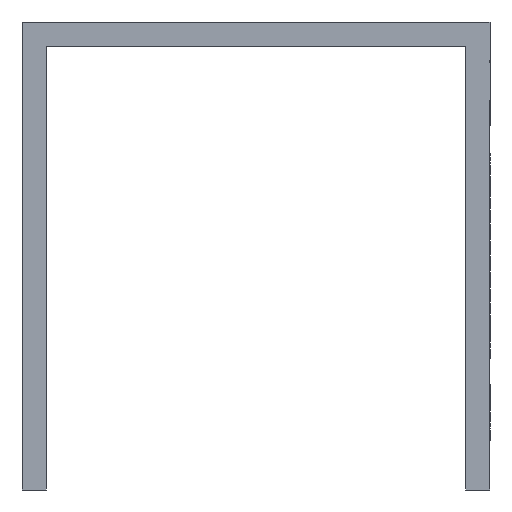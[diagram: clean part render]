
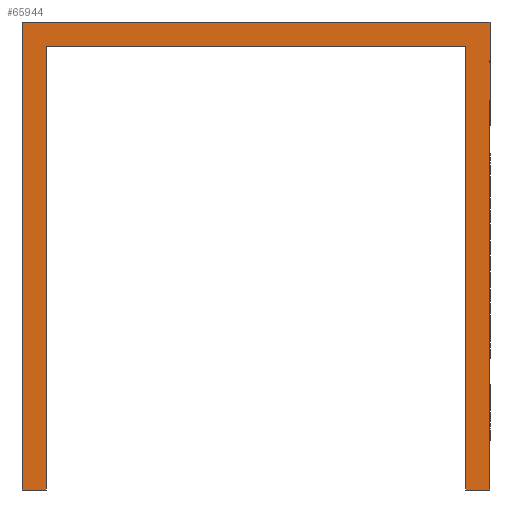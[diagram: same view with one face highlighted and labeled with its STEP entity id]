
A CAD part, front view. The second image highlights one B-rep face of the part: STEP entity #65944.
In plain terms, the highlighted planar face has unit normal (0, -1, 0).
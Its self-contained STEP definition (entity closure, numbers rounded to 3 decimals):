
#1213 = AXIS2_PLACEMENT_3D ( 'NONE', #41166, #5928, #10852 ) ;
#1663 = CARTESIAN_POINT ( 'NONE',  ( 21.5, 0., -45.5 ) ) ;
#2399 = CARTESIAN_POINT ( 'NONE',  ( -21.5, 0., -45.5 ) ) ;
#4068 = CARTESIAN_POINT ( 'NONE',  ( 24., 0., -45.5 ) ) ;
#4873 = LINE ( 'NONE', #66867, #57752 ) ;
#5928 = DIRECTION ( 'NONE',  ( 0., -1., 0. ) ) ;
#7578 = CARTESIAN_POINT ( 'NONE',  ( -24., 0., 2.5 ) ) ;
#7607 = CARTESIAN_POINT ( 'NONE',  ( -24., 0., -45.5 ) ) ;
#10852 = DIRECTION ( 'NONE',  ( 0., 0., -1. ) ) ;
#11380 = CARTESIAN_POINT ( 'NONE',  ( 24., 0., -45.5 ) ) ;
#13257 = DIRECTION ( 'NONE',  ( 1., 0., 0. ) ) ;
#13722 = DIRECTION ( 'NONE',  ( -1., 0., 0. ) ) ;
#15771 = LINE ( 'NONE', #74862, #19531 ) ;
#15963 = ORIENTED_EDGE ( 'NONE', *, *, #74988, .F. ) ;
#15977 = DIRECTION ( 'NONE',  ( -1., 0., 0. ) ) ;
#18752 = CARTESIAN_POINT ( 'NONE',  ( 24., 0., 2.5 ) ) ;
#19028 = ORIENTED_EDGE ( 'NONE', *, *, #25335, .F. ) ;
#19446 = CARTESIAN_POINT ( 'NONE',  ( 24., 0., 2.5 ) ) ;
#19531 = VECTOR ( 'NONE', #15977, 1000. ) ;
#19754 = CARTESIAN_POINT ( 'NONE',  ( 21.5, 0., -45.5 ) ) ;
#20761 = FACE_OUTER_BOUND ( 'NONE', #65677, .T. ) ;
#21417 = VERTEX_POINT ( 'NONE', #2399 ) ;
#21779 = LINE ( 'NONE', #22702, #67319 ) ;
#22702 = CARTESIAN_POINT ( 'NONE',  ( -21.5, 0., 0. ) ) ;
#22707 = LINE ( 'NONE', #30552, #51483 ) ;
#23922 = VERTEX_POINT ( 'NONE', #1663 ) ;
#25335 = EDGE_CURVE ( 'NONE', #44408, #23922, #31151, .T. ) ;
#25661 = EDGE_CURVE ( 'NONE', #49480, #44408, #71016, .T. ) ;
#27111 = EDGE_CURVE ( 'NONE', #21417, #68607, #15771, .T. ) ;
#28888 = VERTEX_POINT ( 'NONE', #7578 ) ;
#29246 = DIRECTION ( 'NONE',  ( 0., 0., 1. ) ) ;
#30440 = ORIENTED_EDGE ( 'NONE', *, *, #32924, .F. ) ;
#30552 = CARTESIAN_POINT ( 'NONE',  ( 21.5, 0., 0. ) ) ;
#31151 = LINE ( 'NONE', #19754, #32036 ) ;
#31303 = CARTESIAN_POINT ( 'NONE',  ( -21.5, 0., 0. ) ) ;
#32036 = VECTOR ( 'NONE', #43826, 1000. ) ;
#32924 = EDGE_CURVE ( 'NONE', #68607, #28888, #4873, .T. ) ;
#33942 = VERTEX_POINT ( 'NONE', #43504 ) ;
#37945 = EDGE_CURVE ( 'NONE', #28888, #49480, #73259, .T. ) ;
#38295 = ORIENTED_EDGE ( 'NONE', *, *, #27111, .F. ) ;
#41166 = CARTESIAN_POINT ( 'NONE',  ( 0., 0., 0. ) ) ;
#42253 = VECTOR ( 'NONE', #46852, 1000. ) ;
#42412 = DIRECTION ( 'NONE',  ( 0., 0., 1. ) ) ;
#43345 = ORIENTED_EDGE ( 'NONE', *, *, #37945, .F. ) ;
#43504 = CARTESIAN_POINT ( 'NONE',  ( 21.5, 0., 0. ) ) ;
#43826 = DIRECTION ( 'NONE',  ( -1., 0., 0. ) ) ;
#44408 = VERTEX_POINT ( 'NONE', #4068 ) ;
#44464 = ORIENTED_EDGE ( 'NONE', *, *, #74421, .F. ) ;
#44747 = ORIENTED_EDGE ( 'NONE', *, *, #25661, .F. ) ;
#46852 = DIRECTION ( 'NONE',  ( 0., 0., -1. ) ) ;
#48117 = CARTESIAN_POINT ( 'NONE',  ( -21.5, 0., 0. ) ) ;
#49480 = VERTEX_POINT ( 'NONE', #18752 ) ;
#51483 = VECTOR ( 'NONE', #29246, 1000. ) ;
#52892 = VERTEX_POINT ( 'NONE', #48117 ) ;
#57439 = VECTOR ( 'NONE', #13257, 1000. ) ;
#57752 = VECTOR ( 'NONE', #42412, 1000. ) ;
#58385 = EDGE_CURVE ( 'NONE', #52892, #21417, #21779, .T. ) ;
#64234 = DIRECTION ( 'NONE',  ( 0., 0., -1. ) ) ;
#65677 = EDGE_LOOP ( 'NONE', ( #15963, #19028, #44747, #43345, #30440, #38295, #70761, #44464 ) ) ;
#65944 = ADVANCED_FACE ( 'NONE', ( #20761 ), #71023, .T. ) ;
#66867 = CARTESIAN_POINT ( 'NONE',  ( -24., 0., -45.5 ) ) ;
#67319 = VECTOR ( 'NONE', #64234, 1000. ) ;
#68607 = VERTEX_POINT ( 'NONE', #7607 ) ;
#70761 = ORIENTED_EDGE ( 'NONE', *, *, #58385, .F. ) ;
#71016 = LINE ( 'NONE', #11380, #42253 ) ;
#71023 = PLANE ( 'NONE',  #1213 ) ;
#72912 = VECTOR ( 'NONE', #13722, 1000. ) ;
#73259 = LINE ( 'NONE', #19446, #57439 ) ;
#74421 = EDGE_CURVE ( 'NONE', #33942, #52892, #76580, .T. ) ;
#74862 = CARTESIAN_POINT ( 'NONE',  ( -21.5, 0., -45.5 ) ) ;
#74988 = EDGE_CURVE ( 'NONE', #23922, #33942, #22707, .T. ) ;
#76580 = LINE ( 'NONE', #31303, #72912 ) ;
